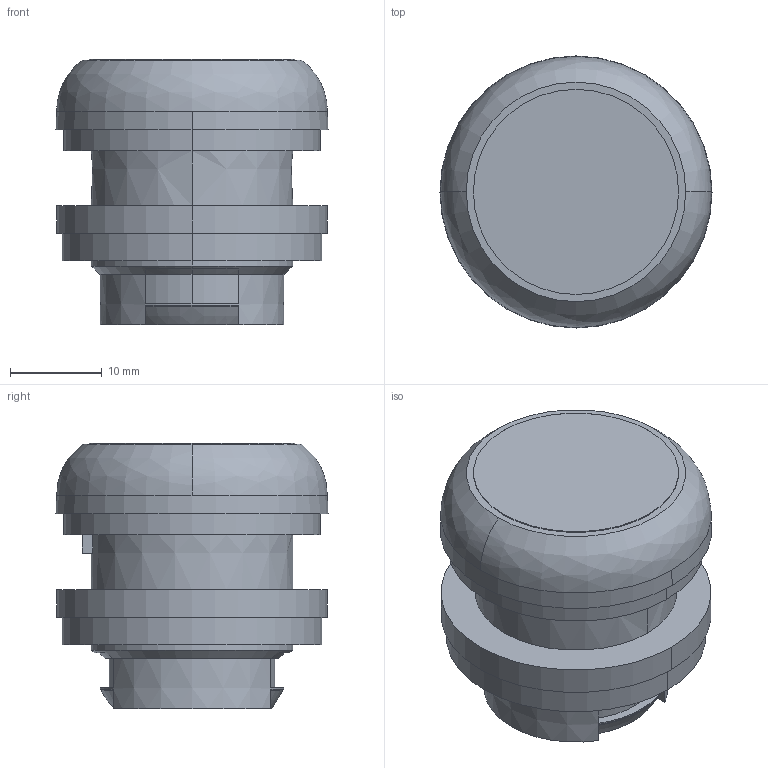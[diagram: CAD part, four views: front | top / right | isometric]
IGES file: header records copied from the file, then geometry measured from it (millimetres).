
Start section: Data from XPlus IGES,  Spatial Corp. Copyright (c) 1999-2004
Global section: file name: 216922.igs; native system:  By Spatial Corp.; preprocessor: XPlus ACIS/IGES 3.0; author: Noname; organization: Noname; date: 20120529.213034; units: millimetre
Bounding box: 29.7 x 29.7 x 29 mm (x, y, z)
Surface area: 4146.4 mm2 (no closed solid volume)
Topology: 0 solids, 0 shells, 66 faces, 340 edges, 340 vertices
Faces by surface type: revolution 35, extrusion 31
